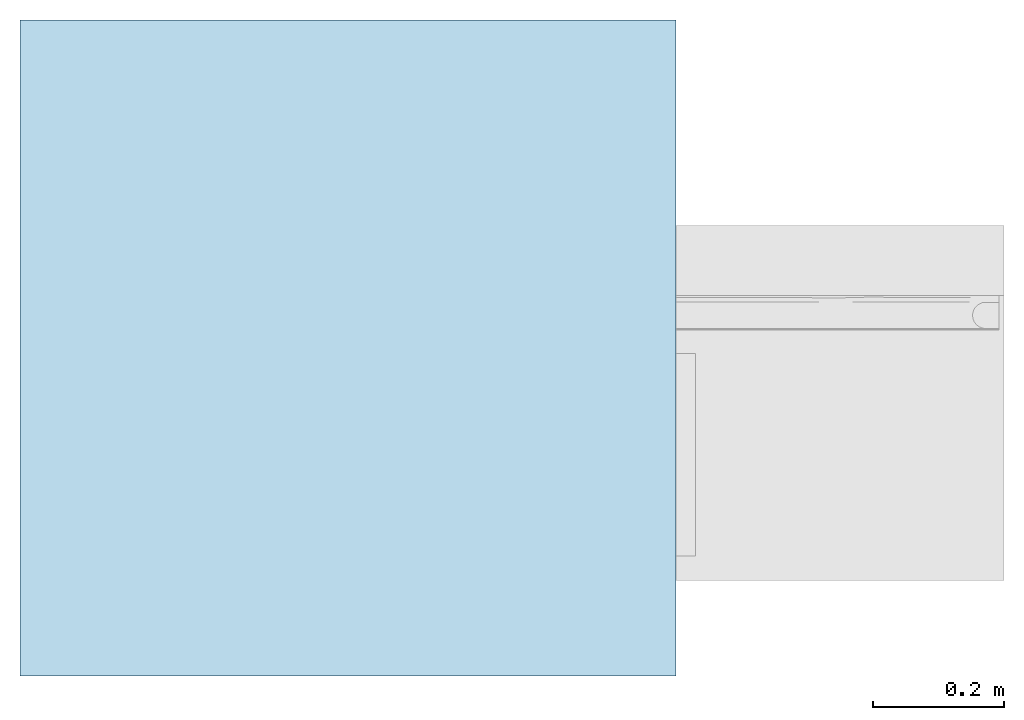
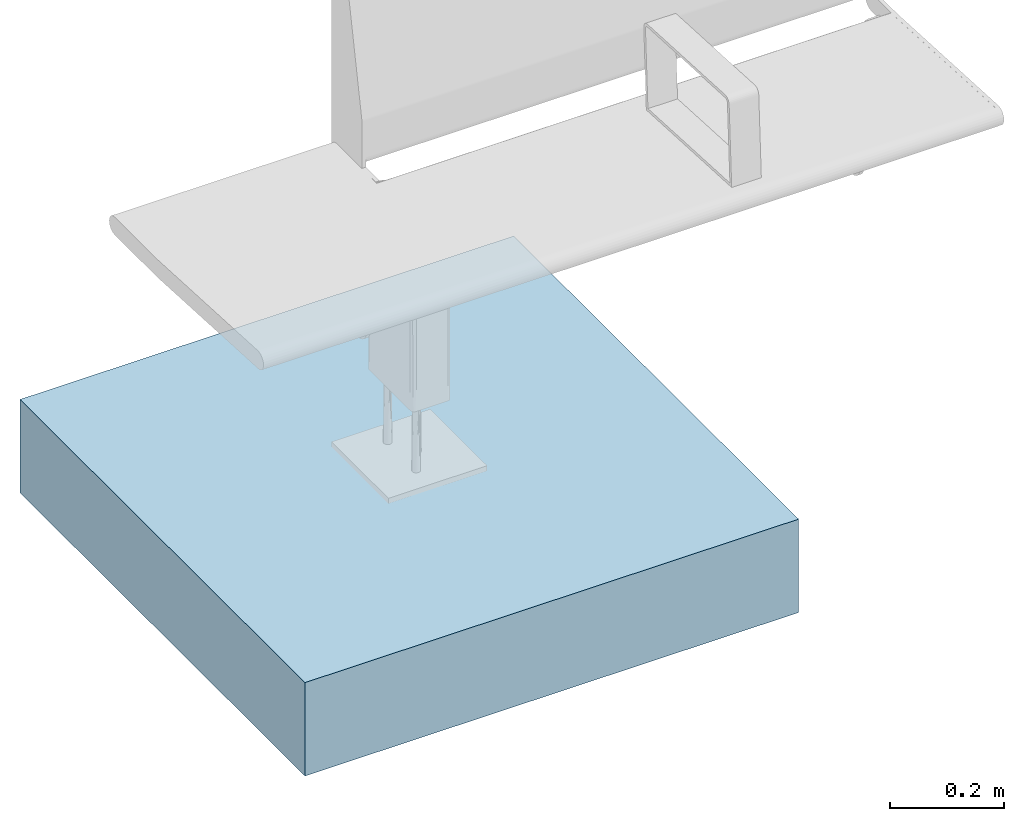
# One storey, incomplete: 1 slab.
"""IFC4 building model written with IfcOpenShell, lengths in metres."""

import ifcopenshell
import ifcopenshell.guid

model = None  # the IFC model being written
_history = None  # IfcOwnerHistory: only IFC2X3 demands one
_inside = {}  # id of a spatial element -> (the spatial element, [elements in it])
_under = {}  # id of a project, library or spatial element -> (it, [spatial elements below it])
_declared = {}  # id of a project -> (the project, [libraries it declares])
_typed = {}  # id of a type object -> (the type object, [elements of that type])
_made_of = {}  # id of a material, layer set ... -> (it, [elements and type objects made of it])


def new_model(schema):
    """Start an empty IFC model of exactly this schema.

    Asked for "IFC4X3", IfcOpenShell would pick the latest addendum, in which some entities
    have other attributes; the version numbers below select the first issue.
    IFC2X3 requires an IfcOwnerHistory on every rooted entity: one is made here for all.
    """
    global model, _history
    if schema == "IFC4X3":
        model = ifcopenshell.file(schema_version=(4, 3, 0, 0))
    else:
        model = ifcopenshell.file(schema=schema)
    _inside.clear()
    _under.clear()
    _declared.clear()
    _typed.clear()
    _made_of.clear()
    _history = None
    if model.schema == "IFC2X3":
        org = make("IfcOrganization", Name="unknown")
        user = make(
            "IfcPersonAndOrganization",
            ThePerson=make("IfcPerson", FamilyName="unknown"),
            TheOrganization=org,
        )
        app = make(
            "IfcApplication",
            ApplicationDeveloper=org,
            Version="unknown",
            ApplicationFullName="unknown",
            ApplicationIdentifier="unknown",
        )
        _history = make(
            "IfcOwnerHistory",
            OwningUser=user,
            OwningApplication=app,
            ChangeAction="ADDED",
            CreationDate=0,
        )
    return model


def make(cls, **values):
    """One entity of the class cls with the attributes given. An attribute that is None is left unset."""
    return model.create_entity(
        cls, **{name: value for name, value in values.items() if value is not None}
    )


def entity(cls, *values):
    """Any entity or typed value of the class cls, its attributes in the order of the schema. None: left unset."""
    e = model.create_entity(cls)
    for i, value in enumerate(values):
        if value is not None:
            e[i] = value
    return e


def rooted(cls, **values):
    """An entity with a GlobalId (a new one), such as an element, a storey or a relation."""
    return make(cls, GlobalId=ifcopenshell.guid.new(), OwnerHistory=_history, **values)


def si_unit(unit_type, name, prefix=None):
    """IfcSIUnit, for example si_unit("LENGTHUNIT", "METRE", prefix="MILLI")."""
    return make("IfcSIUnit", UnitType=unit_type, Prefix=prefix, Name=name)


def converted_unit(unit_type, name, factor, base, dimensions=None, offset=None):
    """IfcConversionBasedUnit, such as the inch: factor (a typed value) times the base unit."""
    return make(
        "IfcConversionBasedUnit"
        if offset is None
        else "IfcConversionBasedUnitWithOffset",
        ConversionOffset=offset,
        Dimensions=None
        if dimensions is None
        else entity("IfcDimensionalExponents", *dimensions),
        UnitType=unit_type,
        Name=name,
        ConversionFactor=make(
            "IfcMeasureWithUnit", ValueComponent=factor, UnitComponent=base
        ),
    )


def assignment(units):
    """IfcUnitAssignment: the units of a project."""
    return None if units is None else make("IfcUnitAssignment", Units=units)


def point(xyz):
    """IfcCartesianPoint."""
    return None if xyz is None else make("IfcCartesianPoint", Coordinates=xyz)


def direction(xyz):
    """IfcDirection."""
    return None if xyz is None else make("IfcDirection", DirectionRatios=xyz)


def frame(location, z_axis=None, x_axis=None):
    """IfcAxis2Placement3D, a coordinate frame: its origin and axes. An axis left out is left unset."""
    return make(
        "IfcAxis2Placement3D",
        Location=point(location),
        Axis=direction(z_axis),
        RefDirection=direction(x_axis),
    )


def frame_2d(location, x_axis=None):
    """IfcAxis2Placement2D, a coordinate frame in the plane: its origin and x axis."""
    return make(
        "IfcAxis2Placement2D", Location=point(location), RefDirection=direction(x_axis)
    )


def origin():
    """The frame at (0, 0, 0) with its axes left unset."""
    return frame((0.0, 0.0, 0.0))


def place(relative_to, where):
    """IfcLocalPlacement: puts the frame where relative to a parent placement (None: the world)."""
    return make(
        "IfcLocalPlacement", PlacementRelTo=relative_to, RelativePlacement=where
    )


def context(
    kind, dimensions, precision=None, world=None, true_north=None, identifier=None
):
    """IfcGeometricRepresentationContext, for example the 3D "Model" context."""
    return make(
        "IfcGeometricRepresentationContext",
        ContextIdentifier=identifier,
        ContextType=kind,
        CoordinateSpaceDimension=dimensions,
        Precision=precision,
        WorldCoordinateSystem=world,
        TrueNorth=true_north,
    )


def subcontext(parent, identifier, kind, view, scale=None):
    """IfcGeometricRepresentationSubContext, for example "Body" below "Model"."""
    return make(
        "IfcGeometricRepresentationSubContext",
        ContextIdentifier=identifier,
        ContextType=kind,
        ParentContext=parent,
        TargetScale=scale,
        TargetView=view,
    )


def project(units=None, contexts=None):
    """IfcProject with its units and contexts."""
    return rooted(
        "IfcProject",
        Name="project",
        RepresentationContexts=contexts,
        UnitsInContext=assignment(units),
    )


def spatial(cls, under=None, at=None, **own):
    """A site, building, storey or space (cls), placed at a placement, below another one or the project."""
    s = rooted(cls, ObjectPlacement=at, **own)
    if under is not None:
        _under.setdefault(under.id(), (under, []))[1].append(s)
    return s


def profile(cls, at=None, kind="AREA", **sizes):
    """A parametric profile (cls). Its sizes go by their IFC names, for example OverallWidth=200.0."""
    return make(cls, ProfileType=kind, Position=at, **sizes)


def rectangle(**sizes):
    """IfcRectangleProfileDef."""
    return profile("IfcRectangleProfileDef", **sizes)


def extrude(swept, where, along, depth):
    """IfcExtrudedAreaSolid: the profile swept, set in the frame where, extruded along a direction by depth."""
    return make(
        "IfcExtrudedAreaSolid",
        SweptArea=swept,
        Position=where,
        ExtrudedDirection=direction(along),
        Depth=depth,
    )


def shape(context_of_items, identifier, shape_type, items):
    """IfcShapeRepresentation: the items that make up one representation, for example the "Body"."""
    return make(
        "IfcShapeRepresentation",
        ContextOfItems=context_of_items,
        RepresentationIdentifier=identifier,
        RepresentationType=shape_type,
        Items=items,
    )


def material(Name=None, Category=None):
    """IfcMaterial."""
    return make("IfcMaterial", Name=Name, Category=Category)


def made_of(thing, what):
    """Note that an element or type object is made of a material, layer set ...; save() writes the relation."""
    if what is not None:
        _made_of.setdefault(what.id(), (what, []))[1].append(thing)
    return thing


def type_object(cls, material=None, **own):
    """A type object (cls), such as IfcWallType, which elements share."""
    return made_of(rooted(cls, **own), material)


def element(
    cls,
    number,
    at=None,
    inside=None,
    cuts=None,
    type_object=None,
    material=None,
    context=None,
    identifier="Body",
    shape_type=None,
    held_by="IfcProductDefinitionShape",
    body=None,
    shapes=None,
    **own,
):
    """One element of the class cls, such as IfcWall. Its Tag is "e" and its number.

    at: its placement. inside: the storey or other place that contains it. cuts: it is an
    opening in that element (IfcRelVoidsElement). A single representation is given by context,
    identifier, shape_type and body (its items); several are given by shapes. held_by: the class
    of the entity that holds the representations. save() writes the other relations.
    """
    e = rooted(cls, Tag="e%d" % number, ObjectPlacement=at, **own)
    if body is not None:
        shapes = [shape(context, identifier, shape_type, body)]
    if shapes is not None:
        e.Representation = make(held_by, Representations=shapes)
    if inside is not None:
        _inside.setdefault(inside.id(), (inside, []))[1].append(e)
    if cuts is not None:
        rooted(
            "IfcRelVoidsElement", RelatingBuildingElement=cuts, RelatedOpeningElement=e
        )
    if type_object is not None:
        _typed.setdefault(type_object.id(), (type_object, []))[1].append(e)
    return made_of(e, material)


def aggregate(whole, parts):
    """IfcRelAggregates: a whole, such as a stair, and the parts it consists of."""
    return rooted("IfcRelAggregates", RelatingObject=whole, RelatedObjects=parts)


def save(model, path):
    """Write the relations noted so far, then the file.

    IfcRelAggregates (storeys below a building ...), IfcRelContainedInSpatialStructure (elements
    in a storey), IfcRelDefinesByType, IfcRelAssociatesMaterial and IfcRelDeclares: one each for
    every whole, place, type object, material and project.
    """
    for whole, parts in _under.values():
        aggregate(whole, parts)
    for where, things in _inside.values():
        rooted(
            "IfcRelContainedInSpatialStructure",
            RelatedElements=things,
            RelatingStructure=where,
        )
    for kind, things in _typed.values():
        rooted("IfcRelDefinesByType", RelatedObjects=things, RelatingType=kind)
    for what, things in _made_of.values():
        rooted("IfcRelAssociatesMaterial", RelatedObjects=things, RelatingMaterial=what)
    for by, libraries in _declared.values():
        rooted("IfcRelDeclares", RelatingContext=by, RelatedDefinitions=libraries)
    model.write(path)


model = new_model("IFC4")

# Units and contexts
model_context = context("Model", 3, precision=1e-05, world=origin(), true_north=direction((6.123031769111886e-17, 1.0)))
body_context = subcontext(model_context, "Body", "Model", "MODEL_VIEW")
ifc_project = project(units=[si_unit("LENGTHUNIT", "METRE"), converted_unit("PLANEANGLEUNIT", "DEGREE", entity("IfcPlaneAngleMeasure", 0.017453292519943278), si_unit("PLANEANGLEUNIT", "RADIAN"), dimensions=[0, 0, 0, 0, 0, 0, 0]), si_unit("AREAUNIT", "SQUARE_METRE")], contexts=[model_context])

# Site, building, storey
site_placement = place(None, origin())
site = spatial("IfcSite", under=ifc_project, at=site_placement, Name="Default", CompositionType="ELEMENT")
building_placement = place(site_placement, origin())
building = spatial("IfcBuilding", under=site, at=building_placement, CompositionType="ELEMENT")
storey_placement = place(building_placement, origin())
storey = spatial("IfcBuildingStorey", under=building, at=storey_placement, Name="Ebene 0", CompositionType="ELEMENT", Elevation=0.0)

# Slab
ifc_material = material(Name="DB_Fertigbeton", Category="DB_Beton")
slab_type = type_object("IfcSlabType", Name="DB_Calidum_light_Fundament:DB_Calidum_light_Fundament", PredefinedType="BASESLAB", material=ifc_material)
slab_placement = place(storey_placement, origin())
element("IfcSlab", 1, at=slab_placement, inside=storey, type_object=slab_type, Name="DB_Calidum_light_Fundament:DB_Calidum_light_Fundament", ObjectType="DB_Calidum_light_Fundament:DB_Calidum_light_Fundament", PredefinedType="BASESLAB", context=body_context, shape_type="SweptSolid", body=[
    extrude(rectangle(XDim=0.9999999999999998, YDim=0.9999999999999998, at=frame_2d((2.7755575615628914e-17, -2.7755575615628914e-17), x_axis=(1.0, 0.0))), frame((-1.0, 0.0, -0.36199999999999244), z_axis=(0.0, 0.0, 1.0), x_axis=(0.0, 1.0, 0.0)), (0.0, 0.0, 1.0), 0.2),
])

save(model, "model.ifc")
